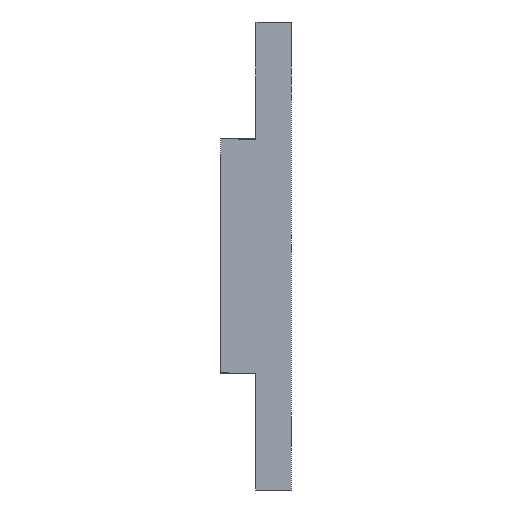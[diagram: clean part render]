
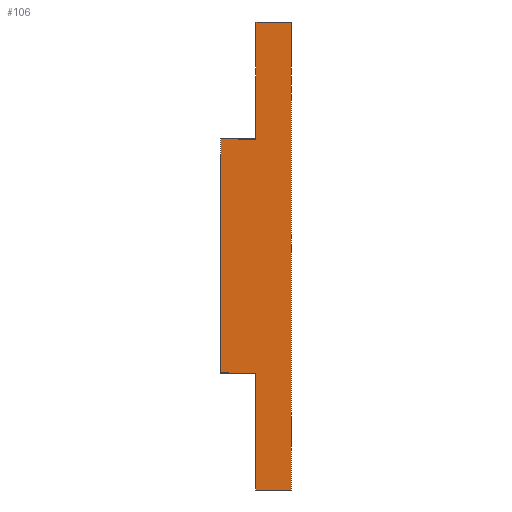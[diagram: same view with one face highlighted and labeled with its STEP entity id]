
A CAD part, left-side view. The second image highlights one B-rep face of the part: STEP entity #106.
In plain terms, the highlighted planar face has unit normal (-1, 0, 0).
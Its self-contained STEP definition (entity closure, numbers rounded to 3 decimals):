
#31 = ORIENTED_EDGE ( 'NONE', *, *, #369, .F. ) ;
#37 = EDGE_CURVE ( 'NONE', #957, #825, #779, .T. ) ;
#50 = DIRECTION ( 'NONE',  ( 0., 0., 1. ) ) ;
#53 = DIRECTION ( 'NONE',  ( 0., -1., 0. ) ) ;
#66 = CARTESIAN_POINT ( 'NONE',  ( 0., 6., -10. ) ) ;
#68 = CARTESIAN_POINT ( 'NONE',  ( 0., 3., 10. ) ) ;
#91 = CARTESIAN_POINT ( 'NONE',  ( 0., 0., -20. ) ) ;
#92 = VECTOR ( 'NONE', #800, 1000. ) ;
#106 = ADVANCED_FACE ( 'NONE', ( #697 ), #246, .F. ) ;
#131 = ORIENTED_EDGE ( 'NONE', *, *, #982, .T. ) ;
#158 = DIRECTION ( 'NONE',  ( 1., 0., 0. ) ) ;
#171 = VECTOR ( 'NONE', #346, 1000. ) ;
#172 = LINE ( 'NONE', #239, #366 ) ;
#175 = DIRECTION ( 'NONE',  ( 0., -1., 0. ) ) ;
#201 = EDGE_CURVE ( 'NONE', #672, #957, #703, .T. ) ;
#214 = ORIENTED_EDGE ( 'NONE', *, *, #863, .T. ) ;
#215 = LINE ( 'NONE', #91, #171 ) ;
#223 = DIRECTION ( 'NONE',  ( 0., -1., 0. ) ) ;
#232 = CARTESIAN_POINT ( 'NONE',  ( 0., 6., 10. ) ) ;
#237 = LINE ( 'NONE', #330, #894 ) ;
#239 = CARTESIAN_POINT ( 'NONE',  ( 0., 3., -20. ) ) ;
#241 = VECTOR ( 'NONE', #713, 1000. ) ;
#245 = CARTESIAN_POINT ( 'NONE',  ( 0., 0., 20. ) ) ;
#246 = PLANE ( 'NONE',  #569 ) ;
#254 = DIRECTION ( 'NONE',  ( 0., 0., -1. ) ) ;
#330 = CARTESIAN_POINT ( 'NONE',  ( 0., 3., -20. ) ) ;
#346 = DIRECTION ( 'NONE',  ( 0., 0., 1. ) ) ;
#347 = CARTESIAN_POINT ( 'NONE',  ( 0., 3., -20. ) ) ;
#361 = ORIENTED_EDGE ( 'NONE', *, *, #1065, .F. ) ;
#363 = VERTEX_POINT ( 'NONE', #501 ) ;
#366 = VECTOR ( 'NONE', #50, 1000. ) ;
#369 = EDGE_CURVE ( 'NONE', #792, #672, #595, .T. ) ;
#501 = CARTESIAN_POINT ( 'NONE',  ( 0., 6., -10. ) ) ;
#520 = VECTOR ( 'NONE', #941, 1000. ) ;
#540 = ORIENTED_EDGE ( 'NONE', *, *, #37, .F. ) ;
#557 = CARTESIAN_POINT ( 'NONE',  ( 0., 3., 20. ) ) ;
#564 = VECTOR ( 'NONE', #175, 1000. ) ;
#569 = AXIS2_PLACEMENT_3D ( 'NONE', #347, #158, #254 ) ;
#595 = LINE ( 'NONE', #232, #564 ) ;
#649 = LINE ( 'NONE', #66, #831 ) ;
#651 = CARTESIAN_POINT ( 'NONE',  ( 0., 6., 10. ) ) ;
#652 = CARTESIAN_POINT ( 'NONE',  ( 0., 3., -20. ) ) ;
#653 = CARTESIAN_POINT ( 'NONE',  ( 0., 3., -20. ) ) ;
#672 = VERTEX_POINT ( 'NONE', #68 ) ;
#688 = EDGE_CURVE ( 'NONE', #363, #939, #649, .T. ) ;
#691 = EDGE_CURVE ( 'NONE', #1082, #939, #172, .T. ) ;
#697 = FACE_OUTER_BOUND ( 'NONE', #915, .T. ) ;
#703 = LINE ( 'NONE', #652, #241 ) ;
#706 = VERTEX_POINT ( 'NONE', #871 ) ;
#713 = DIRECTION ( 'NONE',  ( 0., 0., 1. ) ) ;
#756 = CARTESIAN_POINT ( 'NONE',  ( 0., 6., -10. ) ) ;
#770 = ORIENTED_EDGE ( 'NONE', *, *, #688, .T. ) ;
#779 = LINE ( 'NONE', #837, #520 ) ;
#792 = VERTEX_POINT ( 'NONE', #651 ) ;
#800 = DIRECTION ( 'NONE',  ( 0., 0., 1. ) ) ;
#825 = VERTEX_POINT ( 'NONE', #245 ) ;
#831 = VECTOR ( 'NONE', #53, 1000. ) ;
#837 = CARTESIAN_POINT ( 'NONE',  ( 0., 3., 20. ) ) ;
#851 = ORIENTED_EDGE ( 'NONE', *, *, #201, .F. ) ;
#863 = EDGE_CURVE ( 'NONE', #1082, #706, #237, .T. ) ;
#871 = CARTESIAN_POINT ( 'NONE',  ( 0., 0., -20. ) ) ;
#894 = VECTOR ( 'NONE', #223, 1000. ) ;
#915 = EDGE_LOOP ( 'NONE', ( #131, #540, #851, #31, #361, #770, #925, #214 ) ) ;
#925 = ORIENTED_EDGE ( 'NONE', *, *, #691, .F. ) ;
#939 = VERTEX_POINT ( 'NONE', #1010 ) ;
#941 = DIRECTION ( 'NONE',  ( 0., -1., 0. ) ) ;
#957 = VERTEX_POINT ( 'NONE', #557 ) ;
#982 = EDGE_CURVE ( 'NONE', #706, #825, #215, .T. ) ;
#1010 = CARTESIAN_POINT ( 'NONE',  ( 0., 3., -10. ) ) ;
#1042 = LINE ( 'NONE', #756, #92 ) ;
#1065 = EDGE_CURVE ( 'NONE', #363, #792, #1042, .T. ) ;
#1082 = VERTEX_POINT ( 'NONE', #653 ) ;
